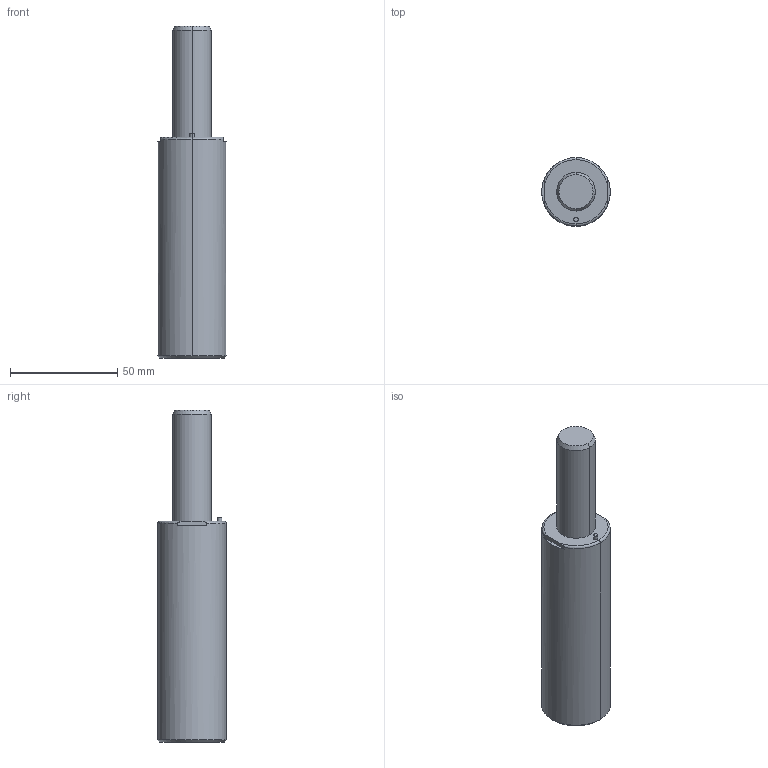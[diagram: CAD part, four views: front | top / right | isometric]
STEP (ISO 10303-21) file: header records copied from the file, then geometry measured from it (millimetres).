
FILE_DESCRIPTION(/* description */ (''),/* implementation_level */ '2;1');
FILE_NAME(/* name */ '3d_gsx32-50_03993_r00.stp',/* time_stamp */ '2011-01-10T14:15:13+09:00',/* author */ ('MISUMI'),/* organization */ (''),/* preprocessor_version */ 'ST-DEVELOPER v11',/* originating_system */ 'UGS - NX 5.0',/* authorisation */ '');
FILE_SCHEMA (('CONFIG_CONTROL_DESIGN'));
Length unit declared in the file: millimetre
Products named in the file (1): 3d_gsx32-50_03993_r00
Bounding box: 32 x 32 x 155 mm (x, y, z)
Volume: 94629.7 mm3; surface area: 15657.6 mm2
Topology: 1 solids, 1 shells, 45 faces, 98 edges, 60 vertices
Faces by surface type: cylinder 20, plane 13, cone 8, torus 4
Entity records: 1324 total; most frequent: DIRECTION 236, CARTESIAN_POINT 228, ORIENTED_EDGE 188, AXIS2_PLACEMENT_3D 100, EDGE_CURVE 94, VERTEX_POINT 60, EDGE_LOOP 54, CIRCLE 54
